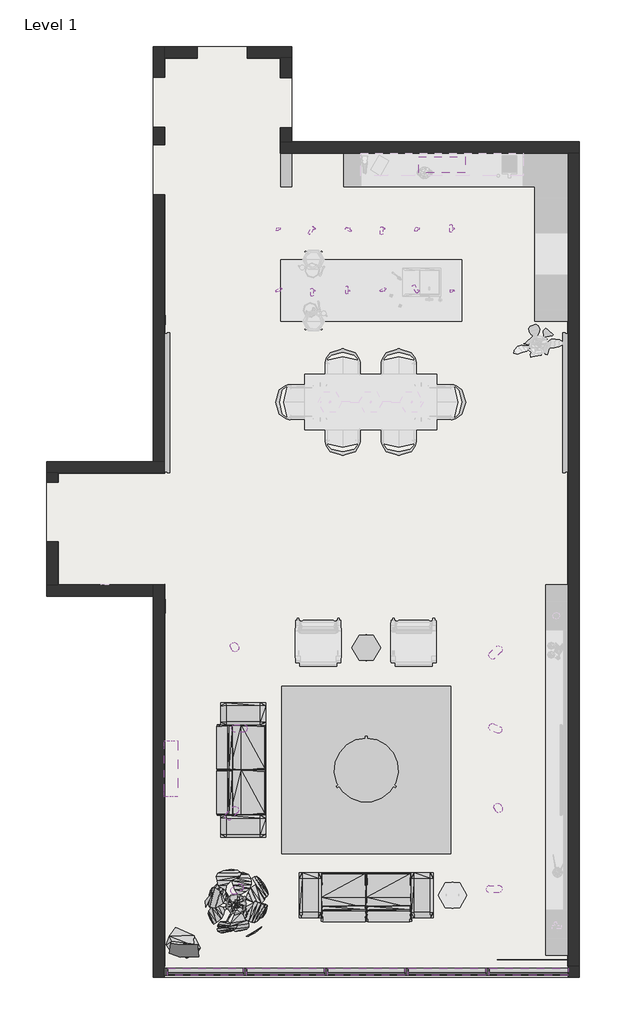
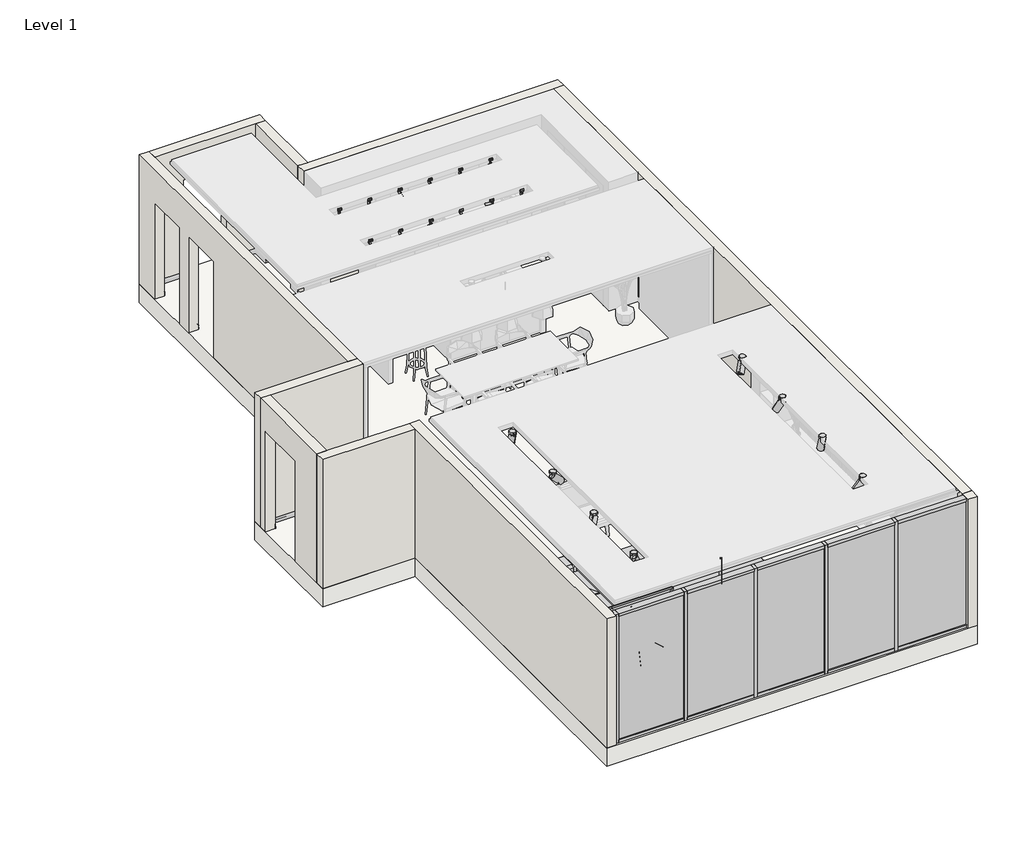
# One storey, part 1 of 4: 20 light fixtures, 15 members, 10 walls, 7 geographic elements, 5 plates, 3 proxies, 1 slab.
"""IFC4 building model written with IfcOpenShell, lengths in millimetres."""

from ifc_helpers import new_model, si_unit, frame, origin, origin_with_axes, place, context, project, spatial, polyline, circle_curve, ellipse_curve, outline, extrude, faceted_brep, transform, mapped, element, save
from ifc_brep_helpers import plane_surface, cylinder_surface, revolved_surface, advanced_brep
from components import specialty_equipment_503af9fe, mechanical_equipment_e18acb15, geographic_element_f887d327, enscape_assetdefinition_curtain_005_enscape_assetdefinition_7b1fdd9e, enscape_assetdefinition_rug_019_enscape_assetdefinition_rug_03579923, enscape_assetdefinition_sofa_043_enscape_assetdefinition_e98ad8e1, enscape_assetdefinition_table_062_enscape_assetdefinition_d52d6286, enscape_assetdefinition_table_072_enscape_assetdefinition_da9baf0f, light_fixture_65dafd06, light_fixture_8b405b74, light_fixture_78c87cf6, light_fixture_090edace, light_fixture_e5662e54, light_fixture_f47f6631, light_fixture_8f9b67cb, light_fixture_4018adf6, light_fixture_73f92903, light_fixture_0ee675dd, light_fixture_a9e7d7d0, light_fixture_6688fc12, light_fixture_c2cdf5cd, light_fixture_e2dc46ee, rectangular_mullion_rectangular_mullion_1_ca357149, rectangular_mullion_rectangular_mullion_1_a703f887, rectangular_mullion_rectangular_mullion_1_f78abf84, rectangular_mullion_rectangular_mullion_1_b61fd584, rectangular_mullion_rectangular_mullion_1_bbb34006, system_panel_glazed_97c93be5, system_panel_glazed_bb742a93, system_panel_glazed_2d737e80

model = new_model("IFC4")

# Units and contexts
model_context = context("Model", 3, world=origin())
ifc_project = project(units=[si_unit("LENGTHUNIT", "METRE", prefix="MILLI")], contexts=[model_context])

# Site, building, storey
site = spatial("IfcSite", under=ifc_project)
building = spatial("IfcBuilding", under=site)
storey = spatial("IfcBuildingStorey", under=building, Name="Level 1", Elevation=0.0)

# Proxies
placement = place(None, origin())
specialty_equipment_shape = specialty_equipment_503af9fe(model_context)
element("IfcBuildingElementProxy", 1, Name="FP-Revit18-HP36ILTX1-InsertRangeHood-0-US-CA-90000955Arfa : FP-Revit18-HP36ILTX1-InsertRangeHood-0-US-CA-90000955Arfa", ObjectType="FP-Revit18-HP36ILTX1-InsertRangeHood-0-US-CA-90000955Arfa : FP-Revit18-HP36ILTX1-InsertRangeHood-0-US-CA-90000955Arfa", at=placement, inside=storey, context=model_context, shape_type="MappedRepresentation", body=[
    mapped(specialty_equipment_shape, transform((8226.9525098, 8381.4617331, -65.0), x_axis=(1.0, 0.0, 0.0), y_axis=(0.0, 1.0, 0.0), z_axis=(0.0, 0.0, 1.0))),
])
mechanical_equipment_shape = mechanical_equipment_e18acb15(model_context)
element("IfcBuildingElementProxy", 2, Name="Fujitsu General_ASYG18LFCA : ASYG18LFCA", ObjectType="Fujitsu General_ASYG18LFCA : ASYG18LFCA", at=placement, inside=storey, context=model_context, shape_type="MappedRepresentation", body=[
    mapped(mechanical_equipment_shape, transform((3277.9525098, -2392.2133336, 2100.0), x_axis=(0.0, 1.0, 0.0), y_axis=(0.0, 0.0, 1.0), z_axis=(1.0, 0.0, 0.0))),
])
element("IfcBuildingElementProxy", 3, Name="Brick Soldier Course 2", ObjectType="Brick Soldier Course 2", at=placement, inside=storey, context=model_context, shape_type="AdvancedBrep", body=[
    advanced_brep(
    [(3277.9525098, -5909.0133336, 100.0), (3277.9525098, -5909.0133336, 0.0), (3291.0803378, -5909.0133336, 0.0), (3285.5847618, -5909.0133336, 16.7363778), (3284.220014, -5909.0133336, 17.9313406), (3282.9525098, -5909.0133336, 17.9313406), (3282.9525098, -5909.0133336, 25.0), (3283.9895572, -5909.0133336, 25.0), (3285.4407832, -5909.0133336, 26.451226), (3285.4407832, -5909.0133336, 48.5), (3283.9407832, -5909.0133336, 50.0), (3280.4407832, -5909.0133336, 50.0), (3280.4407832, -5909.0133336, 90.0), (3281.5159518, -5909.0133336, 90.0), (3282.9525098, -5909.0133336, 91.4365579), (3282.9525098, -5909.0133336, 95.9967275), (3278.9492372, -5909.0133336, 100.0), (3277.9525098, 887.7866664, 100.0), (3278.9492372, 888.7833939, 100.0), (3282.9525098, 892.7866664, 95.9967275), (3282.9525098, 892.7866664, 91.4365579), (3281.5159518, 891.3501085, 90.0), (3280.4407832, 890.2749399, 90.0), (3280.4407832, 890.2749399, 50.0), (3283.9407832, 893.7749399, 50.0), (3285.4407832, 895.2749399, 48.5), (3285.4407832, 895.2749399, 26.451226), (3283.9895572, 893.8237139, 25.0), (3282.9525098, 892.7866664, 25.0), (3282.9525098, 892.7866664, 17.9313406), (3284.220014, 894.0541707, 17.9313406), (3285.5847618, 895.4189185, 16.7363778), (3291.0803378, 900.9144945, 0.0), (3277.9525098, 887.7866664, 0.0)],
    [
        (0, 1),
        (1, 2),
        (2, 3, circle_curve(frame((3333.0974268, -5909.0133336, 23.0672348), z_axis=(0.0, 1.0, 0.0), x_axis=(1.0, 0.0, 0.0)), 47.932589)),
        (3, 4, circle_curve(frame((3284.220014, -5909.0133336, 16.554531), z_axis=(0.0, -1.0, 0.0), x_axis=(1.0, 0.0, 0.0)), 1.3768096)),
        (4, 5),
        (5, 6),
        (6, 7),
        (7, 8, circle_curve(frame((3283.9895572, -5909.0133336, 26.451226), z_axis=(0.0, -1.0, 0.0), x_axis=(1.0, 0.0, 0.0)), 1.451226)),
        (8, 9),
        (9, 10, circle_curve(frame((3283.9407832, -5909.0133336, 48.5), z_axis=(0.0, -1.0, 0.0), x_axis=(1.0, 0.0, 0.0)), 1.5)),
        (10, 11),
        (11, 12),
        (12, 13),
        (13, 14, circle_curve(frame((3281.5159518, -5909.0133336, 91.4365579), z_axis=(0.0, -1.0, 0.0), x_axis=(1.0, 0.0, 0.0)), 1.4365579)),
        (14, 15),
        (15, 16, circle_curve(frame((3278.9492372, -5909.0133336, 95.9967275), z_axis=(0.0, -1.0, 0.0), x_axis=(1.0, 0.0, 0.0)), 4.0032725)),
        (16, 0),
        (17, 18),
        (18, 19, ellipse_curve(frame((3278.9492372, 888.7833939, 95.9967275), z_axis=(-0.7071067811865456, 0.7071067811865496, 0.0), x_axis=(-0.7071067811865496, -0.7071067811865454, 0.0)), 5.6614823, 4.0032725)),
        (19, 20),
        (20, 21, ellipse_curve(frame((3281.5159518, 891.3501085, 91.4365579), z_axis=(-0.7071067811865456, 0.7071067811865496, 0.0), x_axis=(-0.7071067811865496, -0.7071067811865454, 0.0)), 2.0315997, 1.4365579)),
        (21, 22),
        (22, 23),
        (23, 24),
        (24, 25, ellipse_curve(frame((3283.9407832, 893.7749399, 48.5), z_axis=(-0.7071067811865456, 0.7071067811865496, 0.0), x_axis=(-0.7071067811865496, -0.7071067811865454, 0.0)), 2.1213203, 1.5)),
        (25, 26),
        (26, 27, ellipse_curve(frame((3283.9895572, 893.8237139, 26.451226), z_axis=(-0.7071067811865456, 0.7071067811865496, 0.0), x_axis=(-0.7071067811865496, -0.7071067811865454, 0.0)), 2.0523435, 1.451226)),
        (27, 28),
        (28, 29),
        (29, 30),
        (30, 31, ellipse_curve(frame((3284.220014, 894.0541707, 16.554531), z_axis=(-0.7071067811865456, 0.7071067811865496, 0.0), x_axis=(-0.7071067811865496, -0.7071067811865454, 0.0)), 1.9471028, 1.3768096)),
        (31, 32, ellipse_curve(frame((3333.0974268, 942.9315835, 23.0672348), z_axis=(0.7071067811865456, -0.7071067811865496, 0.0), x_axis=(0.7071067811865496, 0.7071067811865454, 0.0)), 67.7869174, 47.932589)),
        (32, 33),
        (33, 17),
        (0, 17),
        (33, 1),
        (32, 2),
        (31, 3),
        (30, 4),
        (29, 5),
        (28, 6),
        (27, 7),
        (26, 8),
        (25, 9),
        (24, 10),
        (23, 11),
        (22, 12),
        (21, 13),
        (20, 14),
        (19, 15),
        (18, 16),
    ],
    [
        plane_surface(frame((3177.9475425, -5909.0133336, 0.0), z_axis=(0.0, -1.0, 0.0), x_axis=(0.0, 0.0, 1.0))),
        plane_surface(frame((3277.9525098, 887.7866664, -304.8), z_axis=(-0.7071067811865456, 0.7071067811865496, 0.0), x_axis=(-0.7071067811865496, -0.7071067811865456, 0.0))),
        plane_surface(frame((3277.9525098, -5909.0133336, 100.0), z_axis=(-1.0, 0.0, 0.0), x_axis=(0.0, 1.0, 0.0))),
        plane_surface(frame((3277.9525098, -5909.0133336, 0.0), z_axis=(0.0, 0.0, -1.0), x_axis=(0.0, 1.0, 0.0))),
        revolved_surface(polyline([(3381.0300158, 990.8641724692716, 23.0672348), (3381.0300158, -5909.0133336, 23.0672348)]), (3333.0974268, -5909.0133336, 23.0672348), (0.0, 1.0, 0.0)),
        cylinder_surface(frame((3284.220014, -5909.0133336, 16.554531), z_axis=(0.0, -1.0, 0.0), x_axis=(1.0, 0.0, 0.0)), 1.3768096),
        plane_surface(frame((3284.220014, -5909.0133336, 17.9313406), z_axis=(0.0, 0.0, 1.0), x_axis=(0.0, 1.0, 0.0))),
        plane_surface(frame((3282.9525098, -5909.0133336, 17.9313406), z_axis=(1.0, 0.0, 0.0), x_axis=(0.0, 1.0, 0.0))),
        plane_surface(frame((3282.9525098, -5909.0133336, 25.0), z_axis=(0.0, 0.0, -1.0), x_axis=(0.0, 1.0, 0.0))),
        cylinder_surface(frame((3283.9895572, -5909.0133336, 26.451226), z_axis=(0.0, -1.0, 0.0), x_axis=(1.0, 0.0, 0.0)), 1.451226),
        plane_surface(frame((3285.4407832, -5909.0133336, 26.451226), z_axis=(1.0, 0.0, 0.0), x_axis=(0.0, 1.0, 0.0))),
        cylinder_surface(frame((3283.9407832, -5909.0133336, 48.5), z_axis=(0.0, -1.0, 0.0), x_axis=(1.0, 0.0, 0.0)), 1.5),
        plane_surface(frame((3283.9407832, -5909.0133336, 50.0), z_axis=(0.0, 0.0, 1.0), x_axis=(0.0, 1.0, 0.0))),
        plane_surface(frame((3280.4407832, -5909.0133336, 50.0), z_axis=(1.0, 0.0, 0.0), x_axis=(0.0, 1.0, 0.0))),
        plane_surface(frame((3280.4407832, -5909.0133336, 90.0), z_axis=(0.0, 0.0, -1.0), x_axis=(0.0, 1.0, 0.0))),
        cylinder_surface(frame((3281.5159518, -5909.0133336, 91.4365579), z_axis=(0.0, -1.0, 0.0), x_axis=(1.0, 0.0, 0.0)), 1.4365579),
        plane_surface(frame((3282.9525098, -5909.0133336, 91.4365579), z_axis=(1.0, 0.0, 0.0), x_axis=(0.0, 1.0, 0.0))),
        cylinder_surface(frame((3278.9492372, -5909.0133336, 95.9967275), z_axis=(0.0, -1.0, 0.0), x_axis=(1.0, 0.0, 0.0)), 4.0032725),
        plane_surface(frame((3278.9492372, -5909.0133336, 100.0), z_axis=(0.0, 0.0, 1.0), x_axis=(0.0, 1.0, 0.0))),
    ],
    [
        (0, [[1, 2, 3, 4, 5, 6, 7, 8, 9, 10, 11, 12, 13, 14, 15, 16, 17]]),
        (1, [[18, 19, 20, 21, 22, 23, 24, 25, 26, 27, 28, 29, 30, 31, 32, 33, 34]]),
        (2, [[-1, 35, -34, 36]]),
        (3, [[-2, -36, -33, 37]]),
        (4, [[-3, -37, -32, 38]]),
        (5, [[-4, -38, -31, 39]]),
        (6, [[-5, -39, -30, 40]]),
        (7, [[-6, -40, -29, 41]]),
        (8, [[-7, -41, -28, 42]]),
        (9, [[-8, -42, -27, 43]]),
        (10, [[-9, -43, -26, 44]]),
        (11, [[-10, -44, -25, 45]]),
        (12, [[-11, -45, -24, 46]]),
        (13, [[-12, -46, -23, 47]]),
        (14, [[-13, -47, -22, 48]]),
        (15, [[-14, -48, -21, 49]]),
        (16, [[-15, -49, -20, 50]]),
        (17, [[-16, -50, -19, 51]]),
        (18, [[-17, -51, -18, -35]]),
    ],
),
])

# Geographic elements
geographic_element_shape = geographic_element_f887d327(model_context)
element("IfcGeographicElement", 4, ObjectType="Enscape AssetDefinition - Potted Plant 120 Monstera Deliciosa : Enscape AssetDefinition - Potted Plant 120 Monstera Deliciosa", at=placement, inside=storey, context=model_context, shape_type="MappedRepresentation", body=[
    mapped(geographic_element_shape, transform((4557.9525098, -4799.0133336, 0.0), x_axis=(1.0, 0.0, 0.0), y_axis=(0.0, 1.0, 0.0), z_axis=(0.0, 0.0, 1.0))),
])
enscape_assetdefinition_curtain_005_enscape_assetdefinition_shape = enscape_assetdefinition_curtain_005_enscape_assetdefinition_7b1fdd9e(model_context)
element("IfcGeographicElement", 5, ObjectType="Enscape AssetDefinition - Curtain 005 : Enscape AssetDefinition - Curtain 005", at=placement, inside=storey, context=model_context, shape_type="MappedRepresentation", body=[
    mapped(enscape_assetdefinition_curtain_005_enscape_assetdefinition_shape, transform((3930.4525098, -5839.0133336, 0.0), x_axis=(-1.0, 0.0, 0.0), y_axis=(0.0, -1.0, 0.0), z_axis=(0.0, 0.0, 1.0))),
])
enscape_assetdefinition_rug_019_enscape_assetdefinition_rug_shape = enscape_assetdefinition_rug_019_enscape_assetdefinition_rug_03579923(model_context)
element("IfcGeographicElement", 6, ObjectType="Enscape AssetDefinition - Rug 019 : Enscape AssetDefinition - Rug 019", at=placement, inside=storey, context=model_context, shape_type="MappedRepresentation", body=[
    mapped(enscape_assetdefinition_rug_019_enscape_assetdefinition_rug_shape, transform((6877.9525098, -2410.6133336, 0.0), x_axis=(1.0, 0.0, 0.0), y_axis=(0.0, 1.0, 0.0), z_axis=(0.0, 0.0, 1.0))),
])
enscape_assetdefinition_sofa_043_enscape_assetdefinition_shape = enscape_assetdefinition_sofa_043_enscape_assetdefinition_e98ad8e1(model_context)
element("IfcGeographicElement", 7, ObjectType="Enscape AssetDefinition - Sofa 043 : Enscape AssetDefinition - Sofa 043", at=placement, inside=storey, context=model_context, shape_type="MappedRepresentation", body=[
    mapped(enscape_assetdefinition_sofa_043_enscape_assetdefinition_shape, transform((4677.9525098, -2410.6133336, 0.0), x_axis=(0.0, 1.0, 0.0), y_axis=(-1.0, 0.0, 0.0), z_axis=(0.0, 0.0, 1.0))),
])
element("IfcGeographicElement", 8, ObjectType="Enscape AssetDefinition - Sofa 043 : Enscape AssetDefinition - Sofa 043", at=placement, inside=storey, context=model_context, shape_type="MappedRepresentation", body=[
    mapped(enscape_assetdefinition_sofa_043_enscape_assetdefinition_shape, transform((6877.9525098, -4649.0133336, 0.0), x_axis=(-1.0, 0.0, 0.0), y_axis=(0.0, -1.0, 0.0), z_axis=(0.0, 0.0, 1.0))),
])
enscape_assetdefinition_table_062_enscape_assetdefinition_shape = enscape_assetdefinition_table_062_enscape_assetdefinition_d52d6286(model_context)
element("IfcGeographicElement", 9, ObjectType="Enscape AssetDefinition - Table 062 : Enscape AssetDefinition - Table 062 2", at=placement, inside=storey, context=model_context, shape_type="MappedRepresentation", body=[
    mapped(enscape_assetdefinition_table_062_enscape_assetdefinition_shape, transform((6877.9525098, -2410.6133336, 0.0), x_axis=(1.0, 0.0, 0.0), y_axis=(0.0, 1.0, 0.0), z_axis=(0.0, 0.0, 1.0))),
])
enscape_assetdefinition_table_072_enscape_assetdefinition_shape = enscape_assetdefinition_table_072_enscape_assetdefinition_da9baf0f(model_context)
element("IfcGeographicElement", 10, ObjectType="Enscape AssetDefinition - Table 072 : Enscape AssetDefinition - Table 072", at=placement, inside=storey, context=model_context, shape_type="MappedRepresentation", body=[
    mapped(enscape_assetdefinition_table_072_enscape_assetdefinition_shape, transform((6877.9525098, -232.2133336, 0.0), x_axis=(1.0, 0.0, 0.0), y_axis=(0.0, 1.0, 0.0), z_axis=(0.0, 0.0, 1.0))),
])

# Light fixtures
light_fixture_shape = light_fixture_65dafd06(model_context)
element("IfcLightFixture", 11, ObjectType="PIPES C L : 2800 29W-830 62°", at=placement, inside=storey, context=model_context, shape_type="MappedRepresentation", body=[
    mapped(light_fixture_shape, transform((4537.9525098, -3125.6800002, 2800.0), x_axis=(0.0, 1.0, 0.0), y_axis=(1.0, 0.0, 0.0), z_axis=(0.0, 0.0, -1.0))),
])
element("IfcLightFixture", 12, ObjectType="PIPES C L : 2800 29W-830 62°", at=placement, inside=storey, context=model_context, shape_type="MappedRepresentation", body=[
    mapped(light_fixture_shape, transform((9237.9525098, -259.0133336, 2800.0), x_axis=(0.0, 1.0, 0.0), y_axis=(1.0, 0.0, 0.0), z_axis=(0.0, 0.0, -1.0))),
])
light_fixture_2_shape = light_fixture_8b405b74(model_context)
element("IfcLightFixture", 13, ObjectType="PIPES C L : 2800 29W-830 62°", at=placement, inside=storey, context=model_context, shape_type="MappedRepresentation", body=[
    mapped(light_fixture_2_shape, transform((4527.8125625, -4559.0133336, 2800.0), x_axis=(0.0, 1.0, 0.0), y_axis=(1.0, 0.0, 0.0), z_axis=(0.0, 0.0, -1.0))),
])
light_fixture_3_shape = light_fixture_78c87cf6(model_context)
element("IfcLightFixture", 14, ObjectType="PIPES C L : 2800 29W-830 62°", at=placement, inside=storey, context=model_context, shape_type="MappedRepresentation", body=[
    mapped(light_fixture_3_shape, transform((4537.9525098, -234.8191598, 2800.0), x_axis=(0.0, 1.0, 0.0), y_axis=(1.0, 0.0, 0.0), z_axis=(0.0, 0.0, -1.0))),
])
element("IfcLightFixture", 15, ObjectType="PIPES C L : 2800 29W-830 62°", at=placement, inside=storey, context=model_context, shape_type="MappedRepresentation", body=[
    mapped(light_fixture_3_shape, transform((9237.9525098, -3101.4858264, 2800.0), x_axis=(0.0, 1.0, 0.0), y_axis=(1.0, 0.0, 0.0), z_axis=(0.0, 0.0, -1.0))),
])
light_fixture_4_shape = light_fixture_090edace(model_context)
element("IfcLightFixture", 16, ObjectType="PIPES C L : 2800 29W-830 62°", at=placement, inside=storey, context=model_context, shape_type="MappedRepresentation", body=[
    mapped(light_fixture_4_shape, transform((4537.9525098, -1668.1524931, 2800.0), x_axis=(0.0, 1.0, 0.0), y_axis=(1.0, 0.0, 0.0), z_axis=(0.0, 0.0, -1.0))),
])
light_fixture_5_shape = light_fixture_e5662e54(model_context)
element("IfcLightFixture", 17, ObjectType="PIPES C L : 2800 29W-830 62°", at=placement, inside=storey, context=model_context, shape_type="MappedRepresentation", body=[
    mapped(light_fixture_5_shape, transform((9237.9525098, -4534.8191598, 2800.0), x_axis=(0.0, 1.0, 0.0), y_axis=(1.0, 0.0, 0.0), z_axis=(0.0, 0.0, -1.0))),
])
light_fixture_6_shape = light_fixture_f47f6631(model_context)
element("IfcLightFixture", 18, ObjectType="PIPES C L : 2800 29W-830 62°", at=placement, inside=storey, context=model_context, shape_type="MappedRepresentation", body=[
    mapped(light_fixture_6_shape, transform((9227.8125625, -1692.3466669, 2800.0), x_axis=(0.0, 1.0, 0.0), y_axis=(1.0, 0.0, 0.0), z_axis=(0.0, 0.0, -1.0))),
])
light_fixture_7_shape = light_fixture_8f9b67cb(model_context)
element("IfcLightFixture", 19, ObjectType="PIPES T XS : 630lm 7,8W 840 38°", at=placement, inside=storey, context=model_context, shape_type="MappedRepresentation", body=[
    mapped(light_fixture_7_shape, transform((8391.4208044, 7237.7866664, 2800.0), x_axis=(0.0, 1.0, 0.0), y_axis=(1.0, 0.0, 0.0), z_axis=(0.0, 0.0, -1.0))),
])
element("IfcLightFixture", 20, ObjectType="PIPES T XS : 630lm 7,8W 840 38°", at=placement, inside=storey, context=model_context, shape_type="MappedRepresentation", body=[
    mapped(light_fixture_7_shape, transform((6531.4208044, 6137.7866664, 2800.0), x_axis=(0.0, 1.0, 0.0), y_axis=(1.0, 0.0, 0.0), z_axis=(0.0, 0.0, -1.0))),
])
light_fixture_8_shape = light_fixture_4018adf6(model_context)
element("IfcLightFixture", 21, ObjectType="PIPES T XS : 630lm 7,8W 840 38°", at=placement, inside=storey, context=model_context, shape_type="MappedRepresentation", body=[
    mapped(light_fixture_8_shape, transform((7771.4208044, 7237.7866664, 2800.0), x_axis=(0.0, 1.0, 0.0), y_axis=(1.0, 0.0, 0.0), z_axis=(0.0, 0.0, -1.0))),
])
light_fixture_9_shape = light_fixture_73f92903(model_context)
element("IfcLightFixture", 22, ObjectType="PIPES T XS : 630lm 7,8W 840 38°", at=placement, inside=storey, context=model_context, shape_type="MappedRepresentation", body=[
    mapped(light_fixture_9_shape, transform((7151.4208044, 7237.7866664, 2800.0), x_axis=(0.0, 1.0, 0.0), y_axis=(1.0, 0.0, 0.0), z_axis=(0.0, 0.0, -1.0))),
])
element("IfcLightFixture", 23, ObjectType="PIPES T XS : 630lm 7,8W 840 38°", at=placement, inside=storey, context=model_context, shape_type="MappedRepresentation", body=[
    mapped(light_fixture_9_shape, transform((5911.4208044, 6137.7866664, 2800.0), x_axis=(0.0, 1.0, 0.0), y_axis=(1.0, 0.0, 0.0), z_axis=(0.0, 0.0, -1.0))),
])
light_fixture_10_shape = light_fixture_0ee675dd(model_context)
element("IfcLightFixture", 24, ObjectType="PIPES T XS : 630lm 7,8W 840 38°", at=placement, inside=storey, context=model_context, shape_type="MappedRepresentation", body=[
    mapped(light_fixture_10_shape, transform((6531.4208044, 7237.7866664, 2800.0), x_axis=(0.0, 1.0, 0.0), y_axis=(1.0, 0.0, 0.0), z_axis=(0.0, 0.0, -1.0))),
])
light_fixture_11_shape = light_fixture_a9e7d7d0(model_context)
element("IfcLightFixture", 25, ObjectType="PIPES T XS : 630lm 7,8W 840 38°", at=placement, inside=storey, context=model_context, shape_type="MappedRepresentation", body=[
    mapped(light_fixture_11_shape, transform((5911.4208044, 7237.7866664, 2800.0), x_axis=(0.0, 1.0, 0.0), y_axis=(1.0, 0.0, 0.0), z_axis=(0.0, 0.0, -1.0))),
])
light_fixture_12_shape = light_fixture_6688fc12(model_context)
element("IfcLightFixture", 26, ObjectType="PIPES T XS : 630lm 7,8W 840 38°", at=placement, inside=storey, context=model_context, shape_type="MappedRepresentation", body=[
    mapped(light_fixture_12_shape, transform((5291.4208044, 7237.7866664, 2800.0), x_axis=(0.0, 1.0, 0.0), y_axis=(1.0, 0.0, 0.0), z_axis=(0.0, 0.0, -1.0))),
])
element("IfcLightFixture", 27, ObjectType="PIPES T XS : 630lm 7,8W 840 38°", at=placement, inside=storey, context=model_context, shape_type="MappedRepresentation", body=[
    mapped(light_fixture_12_shape, transform((8391.4208044, 6137.7866664, 2800.0), x_axis=(0.0, 1.0, 0.0), y_axis=(1.0, 0.0, 0.0), z_axis=(0.0, 0.0, -1.0))),
])
light_fixture_13_shape = light_fixture_c2cdf5cd(model_context)
element("IfcLightFixture", 28, ObjectType="PIPES T XS : 630lm 7,8W 840 38°", at=placement, inside=storey, context=model_context, shape_type="MappedRepresentation", body=[
    mapped(light_fixture_13_shape, transform((5291.4208044, 6137.7866664, 2800.0), x_axis=(0.0, -1.0, 0.0), y_axis=(-1.0, 0.0, 0.0), z_axis=(0.0, 0.0, -1.0))),
])
element("IfcLightFixture", 29, ObjectType="PIPES T XS : 630lm 7,8W 840 38°", at=placement, inside=storey, context=model_context, shape_type="MappedRepresentation", body=[
    mapped(light_fixture_13_shape, transform((7151.4208044, 6137.7866664, 2800.0), x_axis=(0.0, -1.0, 0.0), y_axis=(-1.0, 0.0, 0.0), z_axis=(0.0, 0.0, -1.0))),
])
light_fixture_14_shape = light_fixture_e2dc46ee(model_context)
element("IfcLightFixture", 30, ObjectType="PIPES T XS : 630lm 7,8W 840 38°", at=placement, inside=storey, context=model_context, shape_type="MappedRepresentation", body=[
    mapped(light_fixture_14_shape, transform((7771.4208044, 6137.7866664, 2800.0), x_axis=(0.0, -1.0, 0.0), y_axis=(-1.0, 0.0, 0.0), z_axis=(0.0, 0.0, -1.0))),
])

# Members
rectangular_mullion_rectangular_mullion_1_shape = rectangular_mullion_rectangular_mullion_1_ca357149(model_context)
element("IfcMember", 31, ObjectType="Rectangular Mullion : Rectangular Mullion 1", at=placement, inside=storey, context=model_context, shape_type="MappedRepresentation", body=[
    mapped(rectangular_mullion_rectangular_mullion_1_shape, transform((4686.2025099, -6009.0133336, 0.0), x_axis=(0.0, 0.0, -1.0), y_axis=(0.0, 1.0, 0.0), z_axis=(1.0, 0.0, 0.0))),
])
rectangular_mullion_rectangular_mullion_1_2_shape = rectangular_mullion_rectangular_mullion_1_a703f887(model_context)
element("IfcMember", 32, ObjectType="Rectangular Mullion : Rectangular Mullion 1", at=placement, inside=storey, context=model_context, shape_type="MappedRepresentation", body=[
    mapped(rectangular_mullion_rectangular_mullion_1_2_shape, transform((6126.2025098, -6009.0133336, 0.0), x_axis=(0.0, 0.0, -1.0), y_axis=(0.0, 1.0, 0.0), z_axis=(1.0, 0.0, 0.0))),
])
element("IfcMember", 33, ObjectType="Rectangular Mullion : Rectangular Mullion 1", at=placement, inside=storey, context=model_context, shape_type="MappedRepresentation", body=[
    mapped(rectangular_mullion_rectangular_mullion_1_2_shape, transform((7566.2025097, -6009.0133336, 0.0), x_axis=(0.0, 0.0, -1.0), y_axis=(0.0, 1.0, 0.0), z_axis=(1.0, 0.0, 0.0))),
])
element("IfcMember", 34, ObjectType="Rectangular Mullion : Rectangular Mullion 1", at=placement, inside=storey, context=model_context, shape_type="MappedRepresentation", body=[
    mapped(rectangular_mullion_rectangular_mullion_1_2_shape, transform((9006.2025096, -6009.0133336, 0.0), x_axis=(0.0, 0.0, -1.0), y_axis=(0.0, 1.0, 0.0), z_axis=(1.0, 0.0, 0.0))),
])
rectangular_mullion_rectangular_mullion_1_3_shape = rectangular_mullion_rectangular_mullion_1_f78abf84(model_context)
element("IfcMember", 35, ObjectType="Rectangular Mullion : Rectangular Mullion 1", at=placement, inside=storey, context=model_context, shape_type="MappedRepresentation", body=[
    mapped(rectangular_mullion_rectangular_mullion_1_3_shape, transform((10477.9525098, -6009.0133336, 0.0), x_axis=(0.0, 0.0, -1.0), y_axis=(0.0, 1.0, 0.0), z_axis=(1.0, 0.0, 0.0))),
])
rectangular_mullion_rectangular_mullion_1_4_shape = rectangular_mullion_rectangular_mullion_1_b61fd584(model_context)
element("IfcMember", 36, ObjectType="Rectangular Mullion : Rectangular Mullion 1", at=placement, inside=storey, context=model_context, shape_type="MappedRepresentation", body=[
    mapped(rectangular_mullion_rectangular_mullion_1_4_shape, transform((9037.9525096, -6009.0133336, 0.0), x_axis=(-1.0, 0.0, 0.0), y_axis=(0.0, 1.0, 0.0), z_axis=(0.0, 0.0, -1.0))),
])
element("IfcMember", 37, ObjectType="Rectangular Mullion : Rectangular Mullion 1", at=placement, inside=storey, context=model_context, shape_type="MappedRepresentation", body=[
    mapped(rectangular_mullion_rectangular_mullion_1_4_shape, transform((7597.9525097, -6009.0133336, 0.0), x_axis=(-1.0, 0.0, 0.0), y_axis=(0.0, 1.0, 0.0), z_axis=(0.0, 0.0, -1.0))),
])
element("IfcMember", 38, ObjectType="Rectangular Mullion : Rectangular Mullion 1", at=placement, inside=storey, context=model_context, shape_type="MappedRepresentation", body=[
    mapped(rectangular_mullion_rectangular_mullion_1_4_shape, transform((6157.9525098, -6009.0133336, 0.0), x_axis=(-1.0, 0.0, 0.0), y_axis=(0.0, 1.0, 0.0), z_axis=(0.0, 0.0, -1.0))),
])
element("IfcMember", 39, ObjectType="Rectangular Mullion : Rectangular Mullion 1", at=placement, inside=storey, context=model_context, shape_type="MappedRepresentation", body=[
    mapped(rectangular_mullion_rectangular_mullion_1_4_shape, transform((4717.9525099, -6009.0133336, 0.0), x_axis=(-1.0, 0.0, 0.0), y_axis=(0.0, 1.0, 0.0), z_axis=(0.0, 0.0, -1.0))),
])
element("IfcMember", 40, ObjectType="Rectangular Mullion : Rectangular Mullion 1", at=placement, inside=storey, context=model_context, shape_type="MappedRepresentation", body=[
    mapped(rectangular_mullion_rectangular_mullion_1_2_shape, transform((4749.7025099, -6009.0133336, 2800.0), x_axis=(0.0, 0.0, 1.0), y_axis=(0.0, 1.0, 0.0), z_axis=(-1.0, 0.0, 0.0))),
])
element("IfcMember", 41, ObjectType="Rectangular Mullion : Rectangular Mullion 1", at=placement, inside=storey, context=model_context, shape_type="MappedRepresentation", body=[
    mapped(rectangular_mullion_rectangular_mullion_1_2_shape, transform((6189.7025098, -6009.0133336, 2800.0), x_axis=(0.0, 0.0, 1.0), y_axis=(0.0, 1.0, 0.0), z_axis=(-1.0, 0.0, 0.0))),
])
element("IfcMember", 42, ObjectType="Rectangular Mullion : Rectangular Mullion 1", at=placement, inside=storey, context=model_context, shape_type="MappedRepresentation", body=[
    mapped(rectangular_mullion_rectangular_mullion_1_2_shape, transform((7629.7025097, -6009.0133336, 2800.0), x_axis=(0.0, 0.0, 1.0), y_axis=(0.0, 1.0, 0.0), z_axis=(-1.0, 0.0, 0.0))),
])
element("IfcMember", 43, ObjectType="Rectangular Mullion : Rectangular Mullion 1", at=placement, inside=storey, context=model_context, shape_type="MappedRepresentation", body=[
    mapped(rectangular_mullion_rectangular_mullion_1_3_shape, transform((9069.7025096, -6009.0133336, 2800.0), x_axis=(0.0, 0.0, 1.0), y_axis=(0.0, 1.0, 0.0), z_axis=(-1.0, 0.0, 0.0))),
])
element("IfcMember", 44, ObjectType="Rectangular Mullion : Rectangular Mullion 1", at=placement, inside=storey, context=model_context, shape_type="MappedRepresentation", body=[
    mapped(rectangular_mullion_rectangular_mullion_1_shape, transform((3341.4525098, -6009.0133336, 2800.0), x_axis=(0.0, 0.0, 1.0), y_axis=(0.0, 1.0, 0.0), z_axis=(-1.0, 0.0, 0.0))),
])
rectangular_mullion_rectangular_mullion_1_5_shape = rectangular_mullion_rectangular_mullion_1_bbb34006(model_context)
element("IfcMember", 45, ObjectType="Rectangular Mullion : Rectangular Mullion 1", at=placement, inside=storey, context=model_context, shape_type="MappedRepresentation", body=[
    mapped(rectangular_mullion_rectangular_mullion_1_5_shape, transform((3277.9525098, -6009.0133336, 0.0), x_axis=(-1.0, 0.0, 0.0), y_axis=(0.0, 1.0, 0.0), z_axis=(0.0, 0.0, -1.0))),
])

# Plates
system_panel_glazed_shape = system_panel_glazed_97c93be5(model_context)
element("IfcPlate", 46, ObjectType="System Panel : Glazed", at=placement, inside=storey, context=model_context, shape_type="MappedRepresentation", body=[
    mapped(system_panel_glazed_shape, transform((9773.8275097, -6009.0133336, 63.5), x_axis=(-1.0, 0.0, 0.0), y_axis=(0.0, -1.0, 0.0), z_axis=(0.0, 0.0, 1.0))),
])
system_panel_glazed_2_shape = system_panel_glazed_bb742a93(model_context)
element("IfcPlate", 47, ObjectType="System Panel : Glazed", at=placement, inside=storey, context=model_context, shape_type="MappedRepresentation", body=[
    mapped(system_panel_glazed_2_shape, transform((8317.9525096, -6009.0133336, 63.5), x_axis=(-1.0, 0.0, 0.0), y_axis=(0.0, -1.0, 0.0), z_axis=(0.0, 0.0, 1.0))),
])
element("IfcPlate", 48, ObjectType="System Panel : Glazed", at=placement, inside=storey, context=model_context, shape_type="MappedRepresentation", body=[
    mapped(system_panel_glazed_2_shape, transform((6877.9525098, -6009.0133336, 63.5), x_axis=(-1.0, 0.0, 0.0), y_axis=(0.0, -1.0, 0.0), z_axis=(0.0, 0.0, 1.0))),
])
element("IfcPlate", 49, ObjectType="System Panel : Glazed", at=placement, inside=storey, context=model_context, shape_type="MappedRepresentation", body=[
    mapped(system_panel_glazed_2_shape, transform((5437.9525099, -6009.0133336, 63.5), x_axis=(-1.0, 0.0, 0.0), y_axis=(0.0, -1.0, 0.0), z_axis=(0.0, 0.0, 1.0))),
])
system_panel_glazed_3_shape = system_panel_glazed_2d737e80(model_context)
element("IfcPlate", 50, ObjectType="System Panel : Glazed", at=placement, inside=storey, context=model_context, shape_type="MappedRepresentation", body=[
    mapped(system_panel_glazed_3_shape, transform((4013.8275098, -6009.0133336, 63.5), x_axis=(-1.0, 0.0, 0.0), y_axis=(0.0, -1.0, 0.0), z_axis=(0.0, 0.0, 1.0))),
])

# Slab
element("IfcSlab", 51, ObjectType="Concrete Slab - 6\"", at=placement, inside=storey, context=model_context, shape_type="SweptSolid", body=[
    extrude(outline(polyline([(3077.9525098, 10487.7866664), (5550.4525708, 10487.7866664), (5550.4525708, 8787.7866664), (10677.9525098, 8787.7866664), (10677.9525098, -6109.0133336), (3077.9525098, -6109.0133336), (3077.9525098, 687.7866664), (1177.9525098, 687.7866664), (1177.9525098, 3087.7866664), (3077.9525098, 3087.7866664), (3077.9525098, 10487.7866664)])), frame((0.0, 0.0, -400.0), z_axis=(0.0, 0.0, 1.0), x_axis=(1.0, 0.0, 0.0)), (0.0, 0.0, 1.0), 400.0),
])

# Walls
element("IfcWall", 52, ObjectType="Generic - 8\"", at=placement, inside=storey, context=model_context, shape_type="Brep", body=[
    faceted_brep([(1177.9525098, 2887.7866664, 2800.0), (1177.9525098, 2887.7866664, 0.0), (1377.9525098, 2887.7866664, 0.0), (3277.9525098, 2887.7866664, 0.0), (3277.9525098, 2887.7866664, 100.0), (3277.9525098, 2887.7866664, 2800.0), (1377.9525098, 2887.7866664, 2800.0), (3277.9525098, 3087.7866664, 0.0), (3077.9525098, 3087.7866664, 0.0), (1177.9525098, 3087.7866664, 0.0), (1177.9525098, 3087.7866664, 2800.0), (3077.9525098, 3087.7866664, 2800.0), (3277.9525098, 3087.7866664, 2800.0), (3277.9525098, 3087.7866664, 100.0)], [[[0, 1, 2, 3, 4, 5, 6]], [[7, 8, 9, 10, 11, 12, 13]], [[9, 8, 7, 3, 2, 1]], [[3, 7, 13, 12, 5, 4]], [[1, 0, 10, 9]], [[10, 0, 6, 5, 12, 11]]]),
])
element("IfcWall", 53, ObjectType="Generic - 8\"", at=placement, inside=storey, context=model_context, shape_type="Brep", body=[
    faceted_brep([(3277.9525098, 10487.7866664, 0.0), (3277.9525098, 10487.7866664, 2800.0), (3277.9525098, 10287.7866664, 2800.0), (3277.9525098, 3087.7866664, 2800.0), (3277.9525098, 3087.7866664, 100.0), (3277.9525098, 3087.7866664, 0.0), (3277.9525098, 7847.7866664, 0.0), (3277.9525098, 7847.7866664, 100.0), (3277.9525098, 7847.7866664, 2090.0), (3277.9525098, 8737.7866664, 2090.0), (3277.9525098, 8737.7866664, 100.0), (3277.9525098, 8737.7866664, 0.0), (3277.9525098, 9047.7866664, 0.0), (3277.9525098, 9047.7866664, 100.0), (3277.9525098, 9047.7866664, 2090.0), (3277.9525098, 9937.7866664, 2090.0), (3277.9525098, 9937.7866664, 100.0), (3277.9525098, 9937.7866664, 0.0), (3277.9525098, 10287.7866664, 0.0), (3077.9525098, 3087.7866664, 0.0), (3077.9525098, 3087.7866664, 2800.0), (3077.9525098, 10487.7866664, 2800.0), (3077.9525098, 10487.7866664, 0.0), (3077.9525098, 9937.7866664, 0.0), (3077.9525098, 9937.7866664, 2090.0), (3077.9525098, 9047.7866664, 2090.0), (3077.9525098, 9047.7866664, 0.0), (3077.9525098, 8737.7866664, 0.0), (3077.9525098, 8737.7866664, 2090.0), (3077.9525098, 7847.7866664, 2090.0), (3077.9525098, 7847.7866664, 0.0)], [[[0, 1, 2, 3, 4, 5, 6, 7, 8, 9, 10, 11, 12, 13, 14, 15, 16, 17, 18]], [[19, 20, 21, 22, 23, 24, 25, 26, 27, 28, 29, 30]], [[5, 19, 30, 6]], [[22, 0, 18, 17, 23]], [[26, 12, 11, 27]], [[20, 19, 5, 4, 3]], [[1, 0, 22, 21]], [[3, 2, 1, 21, 20]], [[15, 24, 23, 17, 16]], [[24, 15, 14, 25]], [[25, 14, 13, 12, 26]], [[9, 28, 27, 11, 10]], [[28, 9, 8, 29]], [[29, 8, 7, 6, 30]]]),
])
element("IfcWall", 54, ObjectType="Generic - 8\"", at=placement, inside=storey, context=model_context, shape_type="Brep", body=[
    faceted_brep([(5550.4525708, 10287.7866664, 2800.0), (5350.4525708, 10287.7866664, 2800.0), (3277.9525098, 10287.7866664, 2800.0), (3277.9525098, 10287.7866664, 100.0), (3277.9525098, 10287.7866664, 0.0), (3869.2025403, 10287.7866664, 0.0), (3869.2025403, 10287.7866664, 100.0), (3869.2025403, 10287.7866664, 2090.0), (4759.2025403, 10287.7866664, 2090.0), (4759.2025403, 10287.7866664, 100.0), (4759.2025403, 10287.7866664, 0.0), (5350.4525708, 10287.7866664, 0.0), (5550.4525708, 10287.7866664, 0.0), (3277.9525098, 10487.7866664, 0.0), (3277.9525098, 10487.7866664, 2800.0), (5550.4525708, 10487.7866664, 2800.0), (5550.4525708, 10487.7866664, 0.0), (4759.2025403, 10487.7866664, 0.0), (4759.2025403, 10487.7866664, 2090.0), (3869.2025403, 10487.7866664, 2090.0), (3869.2025403, 10487.7866664, 0.0)], [[[0, 1, 2, 3, 4, 5, 6, 7, 8, 9, 10, 11, 12]], [[13, 14, 15, 16, 17, 18, 19, 20]], [[4, 13, 20, 5]], [[16, 12, 11, 10, 17]], [[14, 13, 4, 3, 2]], [[2, 1, 0, 15, 14]], [[0, 12, 16, 15]], [[8, 18, 17, 10, 9]], [[18, 8, 7, 19]], [[19, 7, 6, 5, 20]]]),
])
element("IfcWall", 55, ObjectType="Generic - 8\"", at=placement, inside=storey, context=model_context, shape_type="Brep", body=[
    faceted_brep([(5350.4525708, 8587.7866664, 0.0), (10477.9525098, 8587.7866664, 0.0), (10677.9525098, 8587.7866664, 0.0), (10677.9525098, 8587.7866664, 2800.0), (10477.9525098, 8587.7866664, 2800.0), (5350.4525708, 8587.7866664, 2800.0), (5350.4525708, 8587.7866664, 100.0), (10677.9525098, 8787.7866664, 0.0), (5550.4525708, 8787.7866664, 0.0), (5350.4525708, 8787.7866664, 0.0), (5350.4525708, 8787.7866664, 100.0), (5350.4525708, 8787.7866664, 2800.0), (5550.4525708, 8787.7866664, 2800.0), (10677.9525098, 8787.7866664, 2800.0)], [[[0, 1, 2, 3, 4, 5, 6]], [[7, 8, 9, 10, 11, 12, 13]], [[2, 1, 0, 9, 8, 7]], [[3, 2, 7, 13]], [[5, 4, 3, 13, 12, 11]], [[5, 11, 10, 9, 0, 6]]]),
])
element("IfcWall", 56, ObjectType="Generic - 8\"", at=placement, inside=storey, context=model_context, shape_type="SweptSolid", body=[
    extrude(outline(polyline([(10477.9525098, -5909.0133336), (10477.9525098, 8587.7866664), (10677.9525098, 8587.7866664), (10677.9525098, -5909.0133336), (10477.9525098, -5909.0133336)])), origin_with_axes(), (0.0, 0.0, 1.0), 2800.0),
])
element("IfcWall", 57, ObjectType="Generic - 8\"", at=placement, inside=storey, context=model_context, shape_type="Brep", body=[
    faceted_brep([(3277.9525098, 887.7866664, 2800.0), (3277.9525098, -6109.0133336, 2800.0), (3277.9525098, -6109.0133336, 0.0), (3277.9525098, -5909.0133336, 0.0), (3277.9525098, 887.7866664, 0.0), (3277.9525098, 887.7866664, 100.0), (3077.9525098, 887.7866664, 0.0), (3077.9525098, 687.7866664, 0.0), (3077.9525098, -6109.0133336, 0.0), (3077.9525098, -6109.0133336, 2800.0), (3077.9525098, 687.7866664, 2800.0), (3077.9525098, 887.7866664, 2800.0), (3077.9525098, 887.7866664, 100.0)], [[[0, 1, 2, 3, 4, 5]], [[6, 7, 8, 9, 10, 11, 12]], [[8, 7, 6, 4, 3, 2]], [[4, 6, 12, 11, 0, 5]], [[1, 0, 11, 10, 9]], [[2, 1, 9, 8]]]),
])
element("IfcWall", 58, ObjectType="Generic - 8\"", at=placement, inside=storey, context=model_context, shape_type="Brep", body=[
    faceted_brep([(1177.9525098, 887.7866664, 0.0), (1177.9525098, 887.7866664, 2800.0), (1377.9525098, 887.7866664, 2800.0), (3077.9525098, 887.7866664, 2800.0), (3077.9525098, 887.7866664, 100.0), (3077.9525098, 887.7866664, 0.0), (1377.9525098, 887.7866664, 0.0), (1177.9525098, 687.7866664, 0.0), (3077.9525098, 687.7866664, 0.0), (3077.9525098, 687.7866664, 2800.0), (1177.9525098, 687.7866664, 2800.0)], [[[0, 1, 2, 3, 4, 5, 6]], [[7, 8, 9, 10]], [[8, 7, 0, 6, 5]], [[9, 8, 5, 4, 3]], [[1, 0, 7, 10]], [[3, 2, 1, 10, 9]]]),
])
element("IfcWall", 59, ObjectType="Generic - 8\"", at=placement, inside=storey, context=model_context, shape_type="Brep", body=[
    faceted_brep([(1377.9525098, 2887.7866664, 2800.0), (1377.9525098, 887.7866664, 2800.0), (1377.9525098, 887.7866664, 100.0), (1377.9525098, 887.7866664, 0.0), (1377.9525098, 1657.7866664, 0.0), (1377.9525098, 1657.7866664, 100.0), (1377.9525098, 1657.7866664, 2180.0), (1377.9525098, 2717.7866664, 2180.0), (1377.9525098, 2717.7866664, 100.0), (1377.9525098, 2717.7866664, 0.0), (1377.9525098, 2887.7866664, 0.0), (1377.9525098, 2887.7866664, 100.0), (1177.9525098, 887.7866664, 0.0), (1177.9525098, 887.7866664, 2800.0), (1177.9525098, 2887.7866664, 2800.0), (1177.9525098, 2887.7866664, 0.0), (1177.9525098, 2717.7866664, 0.0), (1177.9525098, 2717.7866664, 2180.0), (1177.9525098, 1657.7866664, 2180.0), (1177.9525098, 1657.7866664, 0.0)], [[[0, 1, 2, 3, 4, 5, 6, 7, 8, 9, 10, 11]], [[12, 13, 14, 15, 16, 17, 18, 19]], [[3, 12, 19, 4]], [[15, 10, 9, 16]], [[13, 12, 3, 2, 1]], [[10, 15, 14, 0, 11]], [[1, 0, 14, 13]], [[7, 17, 16, 9, 8]], [[17, 7, 6, 18]], [[18, 6, 5, 4, 19]]]),
])
element("IfcWall", 60, ObjectType="Generic - 8\"", at=placement, inside=storey, context=model_context, shape_type="Brep", body=[
    faceted_brep([(5350.4525708, 8787.7866664, 2800.0), (5350.4525708, 10287.7866664, 2800.0), (5350.4525708, 10287.7866664, 100.0), (5350.4525708, 10287.7866664, 0.0), (5350.4525708, 9927.7866664, 0.0), (5350.4525708, 9927.7866664, 100.0), (5350.4525708, 9927.7866664, 2090.0), (5350.4525708, 9037.7866664, 2090.0), (5350.4525708, 9037.7866664, 100.0), (5350.4525708, 9037.7866664, 0.0), (5350.4525708, 8787.7866664, 0.0), (5350.4525708, 8787.7866664, 100.0), (5550.4525708, 10287.7866664, 0.0), (5550.4525708, 10287.7866664, 2800.0), (5550.4525708, 8787.7866664, 2800.0), (5550.4525708, 8787.7866664, 0.0), (5550.4525708, 9037.7866664, 0.0), (5550.4525708, 9037.7866664, 2090.0), (5550.4525708, 9927.7866664, 2090.0), (5550.4525708, 9927.7866664, 0.0)], [[[0, 1, 2, 3, 4, 5, 6, 7, 8, 9, 10, 11]], [[12, 13, 14, 15, 16, 17, 18, 19]], [[3, 12, 19, 4]], [[15, 10, 9, 16]], [[13, 12, 3, 2, 1]], [[10, 15, 14, 0, 11]], [[1, 0, 14, 13]], [[7, 17, 16, 9, 8]], [[17, 7, 6, 18]], [[18, 6, 5, 4, 19]]]),
])
element("IfcWall", 61, ObjectType="Generic - 8\"", at=placement, inside=storey, context=model_context, shape_type="SweptSolid", body=[
    extrude(outline(polyline([(10677.9525098, -5909.0133336), (10677.9525098, -6109.0133336), (10477.9525098, -6109.0133336), (10477.9525098, -5909.0133336), (10677.9525098, -5909.0133336)])), origin_with_axes(), (0.0, 0.0, 1.0), 2800.0),
])

save(model, "model.ifc")
